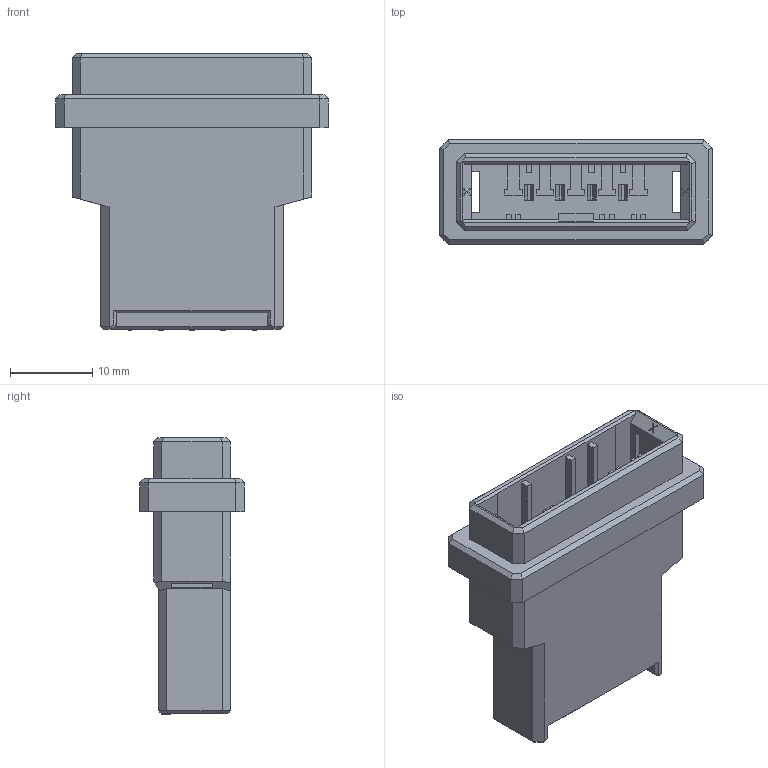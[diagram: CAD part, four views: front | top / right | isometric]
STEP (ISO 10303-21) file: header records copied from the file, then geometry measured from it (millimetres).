
FILE_DESCRIPTION (( 'STEP AP203' ), '1' );
FILE_NAME ('DK-3100S-05F.STEP', '2023-12-28T06:32:38', ( '' ), ( '' ), 'SwSTEP 2.0', 'SolidWorks 2018', '' );
FILE_SCHEMA (( 'CONFIG_CONTROL_DESIGN' ));
Length unit declared in the file: millimetre
Products named in the file (1): DK-3100S-05F
Bounding box: 33.19 x 12.7 x 33.7 mm (x, y, z)
Volume: 5279.6 mm3; surface area: 4725.9 mm2
Topology: 1 solids, 1 shells, 748 faces, 2056 edges, 1350 vertices
Faces by surface type: plane 562, bspline 182, cylinder 4
Entity records: 28526 total; most frequent: CARTESIAN_POINT 10748, ORIENTED_EDGE 4112, DIRECTION 2809, EDGE_CURVE 2056, VECTOR 1659, LINE 1659, VERTEX_POINT 1350, EDGE_LOOP 792
